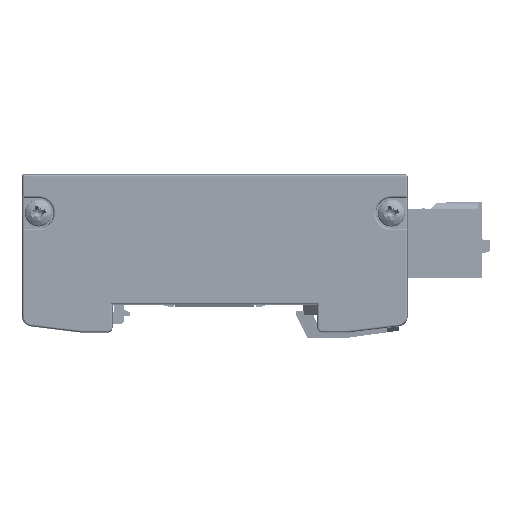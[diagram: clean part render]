
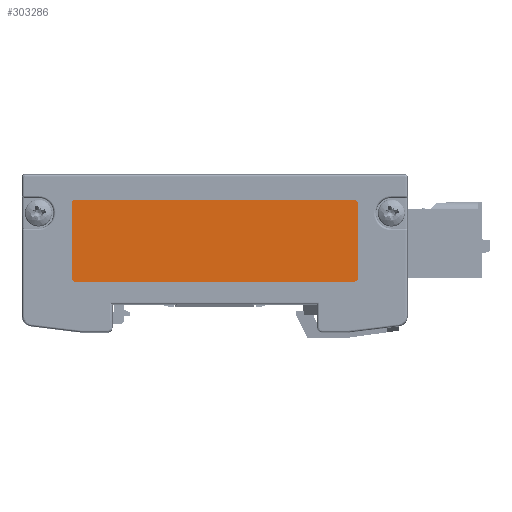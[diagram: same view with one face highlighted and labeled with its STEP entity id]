
A CAD part, left-side view. The second image highlights one B-rep face of the part: STEP entity #303286.
In plain terms, the highlighted planar face has unit normal (-1, 0, 0) as drawn and (0, 0, -1) by its records, which use the part's own axes.
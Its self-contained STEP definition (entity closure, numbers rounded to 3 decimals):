
#7648 = LINE ( 'NONE', #424159, #60120 ) ;
#58223 = VERTEX_POINT ( 'NONE', #382811 ) ;
#60120 = VECTOR ( 'NONE', #206286, 1000. ) ;
#77961 = CARTESIAN_POINT ( 'NONE',  ( -20.25, -27.25, -3.9 ) ) ;
#78153 = VERTEX_POINT ( 'NONE', #129170 ) ;
#80694 = VERTEX_POINT ( 'NONE', #368111 ) ;
#98162 = EDGE_LOOP ( 'NONE', ( #238520, #303384, #421615, #368621, #350631, #126770, #109947, #160904 ) ) ;
#101937 = CARTESIAN_POINT ( 'NONE',  ( -20.25, 28., -3.9 ) ) ;
#105837 = VERTEX_POINT ( 'NONE', #101937 ) ;
#109947 = ORIENTED_EDGE ( 'NONE', *, *, #244010, .T. ) ;
#110453 = DIRECTION ( 'NONE',  ( 0., 0., -1. ) ) ;
#116056 = CARTESIAN_POINT ( 'NONE',  ( -21., 27.25, -3.9 ) ) ;
#126770 = ORIENTED_EDGE ( 'NONE', *, *, #380160, .T. ) ;
#129170 = CARTESIAN_POINT ( 'NONE',  ( -20.25, -28., -3.9 ) ) ;
#136013 = CARTESIAN_POINT ( 'NONE',  ( -5., 28., -3.9 ) ) ;
#160904 = ORIENTED_EDGE ( 'NONE', *, *, #403061, .T. ) ;
#161054 = VERTEX_POINT ( 'NONE', #116056 ) ;
#198468 = CARTESIAN_POINT ( 'NONE',  ( -21., -28., -3.9 ) ) ;
#202729 = CARTESIAN_POINT ( 'NONE',  ( -5.75, -27.25, -3.9 ) ) ;
#206286 = DIRECTION ( 'NONE',  ( -1., 0., 0. ) ) ;
#209934 = EDGE_CURVE ( 'NONE', #105837, #80694, #345461, .T. ) ;
#219107 = AXIS2_PLACEMENT_3D ( 'NONE', #408518, #451971, #416447 ) ;
#229504 = AXIS2_PLACEMENT_3D ( 'NONE', #320069, #110453, #276432 ) ;
#236808 = EDGE_CURVE ( 'NONE', #161054, #105837, #516117, .T. ) ;
#238520 = ORIENTED_EDGE ( 'NONE', *, *, #281168, .T. ) ;
#240757 = CARTESIAN_POINT ( 'NONE',  ( -5.75, -28., -3.9 ) ) ;
#244010 = EDGE_CURVE ( 'NONE', #253355, #78153, #7648, .T. ) ;
#253355 = VERTEX_POINT ( 'NONE', #240757 ) ;
#258295 = DIRECTION ( 'NONE',  ( 1., 0., 0. ) ) ;
#261947 = CARTESIAN_POINT ( 'NONE',  ( -5., -27.25, -3.9 ) ) ;
#276432 = DIRECTION ( 'NONE',  ( -1., 0., 0. ) ) ;
#281168 = EDGE_CURVE ( 'NONE', #58223, #161054, #405619, .T. ) ;
#281216 = AXIS2_PLACEMENT_3D ( 'NONE', #320681, #478865, #525097 ) ;
#299185 = CARTESIAN_POINT ( 'NONE',  ( -21., 28., -3.9 ) ) ;
#300860 = EDGE_CURVE ( 'NONE', #80694, #387158, #496368, .T. ) ;
#303286 = ADVANCED_FACE ( 'NONE', ( #317373 ), #483605, .T. ) ;
#303384 = ORIENTED_EDGE ( 'NONE', *, *, #236808, .T. ) ;
#317373 = FACE_OUTER_BOUND ( 'NONE', #98162, .T. ) ;
#320069 = CARTESIAN_POINT ( 'NONE',  ( 0., 0., -3.9 ) ) ;
#320681 = CARTESIAN_POINT ( 'NONE',  ( -20.25, 27.25, -3.9 ) ) ;
#323891 = DIRECTION ( 'NONE',  ( 0., 1., 0. ) ) ;
#335132 = CARTESIAN_POINT ( 'NONE',  ( -5., 27.25, -3.9 ) ) ;
#345461 = LINE ( 'NONE', #299185, #395319 ) ;
#350631 = ORIENTED_EDGE ( 'NONE', *, *, #503324, .T. ) ;
#361221 = DIRECTION ( 'NONE',  ( -1., 0., 0. ) ) ;
#368111 = CARTESIAN_POINT ( 'NONE',  ( -5.75, 28., -3.9 ) ) ;
#368621 = ORIENTED_EDGE ( 'NONE', *, *, #300860, .T. ) ;
#368951 = DIRECTION ( 'NONE',  ( -1., 0., 0. ) ) ;
#380160 = EDGE_CURVE ( 'NONE', #446817, #253355, #392101, .T. ) ;
#382811 = CARTESIAN_POINT ( 'NONE',  ( -21., -27.25, -3.9 ) ) ;
#387158 = VERTEX_POINT ( 'NONE', #335132 ) ;
#392101 = CIRCLE ( 'NONE', #419382, 0.75 ) ;
#395319 = VECTOR ( 'NONE', #258295, 1000. ) ;
#403061 = EDGE_CURVE ( 'NONE', #78153, #58223, #451579, .T. ) ;
#405619 = LINE ( 'NONE', #198468, #470631 ) ;
#407182 = DIRECTION ( 'NONE',  ( 0., 0., -1. ) ) ;
#408518 = CARTESIAN_POINT ( 'NONE',  ( -5.75, 27.25, -3.9 ) ) ;
#412064 = VECTOR ( 'NONE', #468115, 1000. ) ;
#416447 = DIRECTION ( 'NONE',  ( -1., 0., 0. ) ) ;
#419382 = AXIS2_PLACEMENT_3D ( 'NONE', #202729, #407182, #368951 ) ;
#421615 = ORIENTED_EDGE ( 'NONE', *, *, #209934, .T. ) ;
#424159 = CARTESIAN_POINT ( 'NONE',  ( -5., -28., -3.9 ) ) ;
#438077 = LINE ( 'NONE', #136013, #412064 ) ;
#446817 = VERTEX_POINT ( 'NONE', #261947 ) ;
#451579 = CIRCLE ( 'NONE', #512201, 0.75 ) ;
#451971 = DIRECTION ( 'NONE',  ( 0., 0., -1. ) ) ;
#468115 = DIRECTION ( 'NONE',  ( 0., -1., 0. ) ) ;
#470631 = VECTOR ( 'NONE', #323891, 1000. ) ;
#478865 = DIRECTION ( 'NONE',  ( 0., 0., -1. ) ) ;
#483605 = PLANE ( 'NONE',  #229504 ) ;
#496368 = CIRCLE ( 'NONE', #219107, 0.75 ) ;
#503324 = EDGE_CURVE ( 'NONE', #387158, #446817, #438077, .T. ) ;
#512201 = AXIS2_PLACEMENT_3D ( 'NONE', #77961, #532774, #361221 ) ;
#516117 = CIRCLE ( 'NONE', #281216, 0.75 ) ;
#525097 = DIRECTION ( 'NONE',  ( -1., 0., 0. ) ) ;
#532774 = DIRECTION ( 'NONE',  ( 0., 0., -1. ) ) ;
